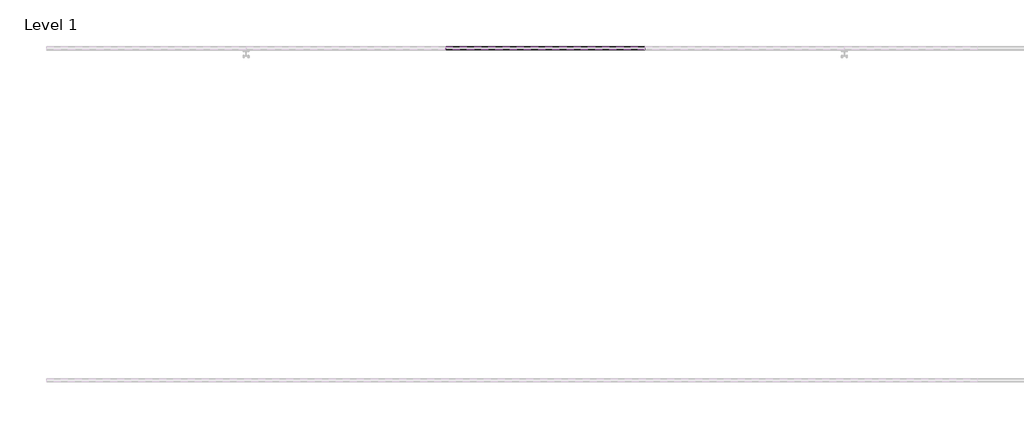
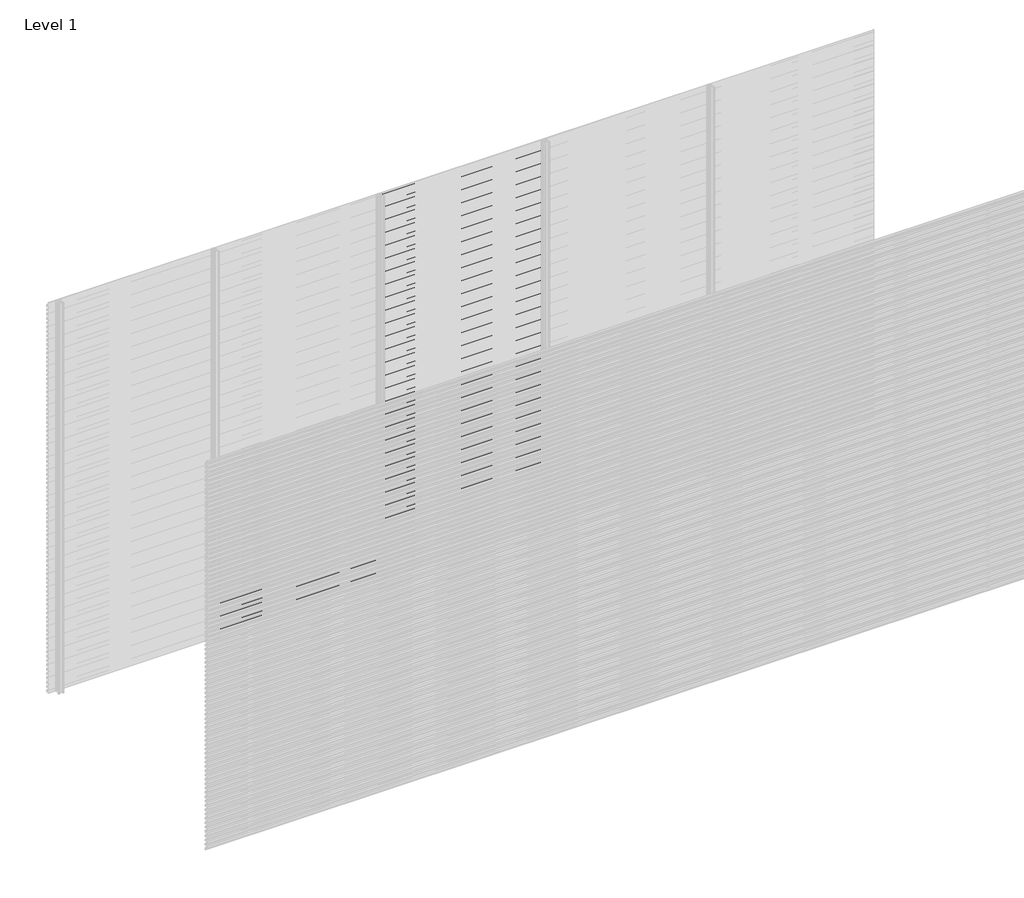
# One storey, part 33 of 507: 84 proxies.
"""IFC4 building model written with IfcOpenShell, lengths in millimetres."""

from ifc_helpers import new_model, si_unit, frame, origin, place, context, project, spatial, polyline, outline, extrude, element, save

model = new_model("IFC4")

# Units and contexts
model_context = context("Model", 3, world=origin())
ifc_project = project(units=[si_unit("LENGTHUNIT", "METRE", prefix="MILLI")], contexts=[model_context])

# Site, building, storey
site = spatial("IfcSite", under=ifc_project)
building = spatial("IfcBuilding", under=site)
storey = spatial("IfcBuildingStorey", under=building, Name="Level 1", Elevation=0.0)

# Proxies
placement = place(None, origin())
element("IfcBuildingElementProxy", 1, Name="Wall Sweeps", at=placement, inside=storey, context=model_context, shape_type="SweptSolid", body=[
    extrude(outline(polyline([(21503.4540136, 242.4), (21503.4540136, 228.9), (21502.2040136, 229.6216933), (21502.2040136, 241.6782281), (21483.0540136, 252.7345698), (21483.0540136, 266.4), (21484.3040136, 266.4), (21484.3040136, 253.4562577), (21503.4540136, 242.4)])), frame((46166.6208099, 0.0, 0.0), z_axis=(1.0, 0.0, 0.0), x_axis=(0.0, 1.0, 0.0)), (0.0, 0.0, 1.0), 1199.9999999),
])
element("IfcBuildingElementProxy", 2, Name="Wall Sweeps", at=placement, inside=storey, context=model_context, shape_type="SweptSolid", body=[
    extrude(outline(polyline([(21503.4540136, 209.1), (21503.4540136, 195.6), (21502.2040136, 196.3216933), (21502.2040136, 208.3782281), (21483.0540136, 219.4345698), (21483.0540136, 233.1), (21484.3040136, 233.1), (21484.3040136, 220.1562577), (21503.4540136, 209.1)])), frame((46166.6208099, 0.0, 0.0), z_axis=(1.0, 0.0, 0.0), x_axis=(0.0, 1.0, 0.0)), (0.0, 0.0, 1.0), 1199.9999999),
])
element("IfcBuildingElementProxy", 3, Name="Wall Sweeps", at=placement, inside=storey, context=model_context, shape_type="SweptSolid", body=[
    extrude(outline(polyline([(21503.4540136, 175.8), (21503.4540136, 162.3), (21502.2040136, 163.0216933), (21502.2040136, 175.0782281), (21483.0540136, 186.1345698), (21483.0540136, 199.8), (21484.3040136, 199.8), (21484.3040136, 186.8562577), (21503.4540136, 175.8)])), frame((46166.6208099, 0.0, 0.0), z_axis=(1.0, 0.0, 0.0), x_axis=(0.0, 1.0, 0.0)), (0.0, 0.0, 1.0), 1199.9999999),
])
element("IfcBuildingElementProxy", 4, Name="Wall Sweeps", at=placement, inside=storey, context=model_context, shape_type="SweptSolid", body=[
    extrude(outline(polyline([(21503.4540136, 142.5), (21503.4540136, 129.0), (21502.2040136, 129.7216933), (21502.2040136, 141.7782281), (21483.0540136, 152.8345698), (21483.0540136, 166.5), (21484.3040136, 166.5), (21484.3040136, 153.5562577), (21503.4540136, 142.5)])), frame((46166.6208099, 0.0, 0.0), z_axis=(1.0, 0.0, 0.0), x_axis=(0.0, 1.0, 0.0)), (0.0, 0.0, 1.0), 1199.9999999),
])
element("IfcBuildingElementProxy", 5, Name="Wall Sweeps", at=placement, inside=storey, context=model_context, shape_type="SweptSolid", body=[
    extrude(outline(polyline([(21503.4540136, 109.2), (21503.4540136, 95.7), (21502.2040136, 96.4216933), (21502.2040136, 108.4782281), (21483.0540136, 119.5345698), (21483.0540136, 133.2), (21484.3040136, 133.2), (21484.3040136, 120.2562577), (21503.4540136, 109.2)])), frame((46166.6208099, 0.0, 0.0), z_axis=(1.0, 0.0, 0.0), x_axis=(0.0, 1.0, 0.0)), (0.0, 0.0, 1.0), 1199.9999999),
])
element("IfcBuildingElementProxy", 6, Name="Wall Sweeps", at=placement, inside=storey, context=model_context, shape_type="SweptSolid", body=[
    extrude(outline(polyline([(21503.4540136, 75.9), (21503.4540136, 62.4), (21502.2040136, 63.1216933), (21502.2040136, 75.1782281), (21483.0540136, 86.2345698), (21483.0540136, 99.9), (21484.3040136, 99.9), (21484.3040136, 86.9562577), (21503.4540136, 75.9)])), frame((46166.6208099, 0.0, 0.0), z_axis=(1.0, 0.0, 0.0), x_axis=(0.0, 1.0, 0.0)), (0.0, 0.0, 1.0), 1199.9999999),
])
element("IfcBuildingElementProxy", 7, Name="Wall Sweeps", at=placement, inside=storey, context=model_context, shape_type="SweptSolid", body=[
    extrude(outline(polyline([(21503.4540136, 42.6), (21503.4540136, 29.1), (21502.2040136, 29.8216933), (21502.2040136, 41.8782281), (21483.0540136, 52.9345698), (21483.0540136, 66.6), (21484.3040136, 66.6), (21484.3040136, 53.6562577), (21503.4540136, 42.6)])), frame((46166.6208099, 0.0, 0.0), z_axis=(1.0, 0.0, 0.0), x_axis=(0.0, 1.0, 0.0)), (0.0, 0.0, 1.0), 1199.9999999),
])
element("IfcBuildingElementProxy", 8, Name="Wall Sweeps", at=placement, inside=storey, context=model_context, shape_type="SweptSolid", body=[
    extrude(outline(polyline([(21503.4540136, 9.3), (21503.4540136, -4.2), (21502.2040136, -3.4783067), (21502.2040136, 8.5782281), (21483.0540136, 19.6345698), (21483.0540136, 33.3), (21484.3040136, 33.3), (21484.3040136, 20.3562577), (21503.4540136, 9.3)])), frame((46166.6208099, 0.0, 0.0), z_axis=(1.0, 0.0, 0.0), x_axis=(0.0, 1.0, 0.0)), (0.0, 0.0, 1.0), 1199.9999999),
])
element("IfcBuildingElementProxy", 9, Name="Wall Sweeps", at=placement, inside=storey, context=model_context, shape_type="SweptSolid", body=[
    extrude(outline(polyline([(21503.4540136, 2973.0), (21503.4540136, 2959.5), (21502.2040136, 2960.2216933), (21502.2040136, 2972.2782281), (21483.0540136, 2983.3345698), (21483.0540136, 2997.0), (21484.3040136, 2997.0), (21484.3040136, 2984.0562577), (21503.4540136, 2973.0)])), frame((47366.6208097, 0.0, 0.0), z_axis=(1.0, 0.0, 0.0), x_axis=(0.0, 1.0, 0.0)), (0.0, 0.0, 1.0), 1199.9999999),
])
element("IfcBuildingElementProxy", 10, Name="Wall Sweeps", at=placement, inside=storey, context=model_context, shape_type="SweptSolid", body=[
    extrude(outline(polyline([(21503.4540136, 2939.7), (21503.4540136, 2926.2), (21502.2040136, 2926.9216933), (21502.2040136, 2938.9782281), (21483.0540136, 2950.0345698), (21483.0540136, 2963.7), (21484.3040136, 2963.7), (21484.3040136, 2950.7562577), (21503.4540136, 2939.7)])), frame((47366.6208097, 0.0, 0.0), z_axis=(1.0, 0.0, 0.0), x_axis=(0.0, 1.0, 0.0)), (0.0, 0.0, 1.0), 1199.9999999),
])
element("IfcBuildingElementProxy", 11, Name="Wall Sweeps", at=placement, inside=storey, context=model_context, shape_type="SweptSolid", body=[
    extrude(outline(polyline([(21503.4540136, 2906.4), (21503.4540136, 2892.9), (21502.2040136, 2893.6216933), (21502.2040136, 2905.6782281), (21483.0540136, 2916.7345698), (21483.0540136, 2930.4), (21484.3040136, 2930.4), (21484.3040136, 2917.4562577), (21503.4540136, 2906.4)])), frame((47366.6208097, 0.0, 0.0), z_axis=(1.0, 0.0, 0.0), x_axis=(0.0, 1.0, 0.0)), (0.0, 0.0, 1.0), 1199.9999999),
])
element("IfcBuildingElementProxy", 12, Name="Wall Sweeps", at=placement, inside=storey, context=model_context, shape_type="SweptSolid", body=[
    extrude(outline(polyline([(21503.4540136, 2873.1), (21503.4540136, 2859.6), (21502.2040136, 2860.3216933), (21502.2040136, 2872.3782281), (21483.0540136, 2883.4345698), (21483.0540136, 2897.1), (21484.3040136, 2897.1), (21484.3040136, 2884.1562577), (21503.4540136, 2873.1)])), frame((47366.6208097, 0.0, 0.0), z_axis=(1.0, 0.0, 0.0), x_axis=(0.0, 1.0, 0.0)), (0.0, 0.0, 1.0), 1199.9999999),
])
element("IfcBuildingElementProxy", 13, Name="Wall Sweeps", at=placement, inside=storey, context=model_context, shape_type="SweptSolid", body=[
    extrude(outline(polyline([(21503.4540136, 2839.8), (21503.4540136, 2826.3), (21502.2040136, 2827.0216933), (21502.2040136, 2839.0782281), (21483.0540136, 2850.1345698), (21483.0540136, 2863.8), (21484.3040136, 2863.8), (21484.3040136, 2850.8562577), (21503.4540136, 2839.8)])), frame((47366.6208097, 0.0, 0.0), z_axis=(1.0, 0.0, 0.0), x_axis=(0.0, 1.0, 0.0)), (0.0, 0.0, 1.0), 1199.9999999),
])
element("IfcBuildingElementProxy", 14, Name="Wall Sweeps", at=placement, inside=storey, context=model_context, shape_type="SweptSolid", body=[
    extrude(outline(polyline([(21503.4540136, 2806.5), (21503.4540136, 2793.0), (21502.2040136, 2793.7216933), (21502.2040136, 2805.7782281), (21483.0540136, 2816.8345698), (21483.0540136, 2830.5), (21484.3040136, 2830.5), (21484.3040136, 2817.5562577), (21503.4540136, 2806.5)])), frame((47366.6208097, 0.0, 0.0), z_axis=(1.0, 0.0, 0.0), x_axis=(0.0, 1.0, 0.0)), (0.0, 0.0, 1.0), 1199.9999999),
])
element("IfcBuildingElementProxy", 15, Name="Wall Sweeps", at=placement, inside=storey, context=model_context, shape_type="SweptSolid", body=[
    extrude(outline(polyline([(21503.4540136, 2773.2), (21503.4540136, 2759.7), (21502.2040136, 2760.4216933), (21502.2040136, 2772.4782281), (21483.0540136, 2783.5345698), (21483.0540136, 2797.2), (21484.3040136, 2797.2), (21484.3040136, 2784.2562577), (21503.4540136, 2773.2)])), frame((47366.6208097, 0.0, 0.0), z_axis=(1.0, 0.0, 0.0), x_axis=(0.0, 1.0, 0.0)), (0.0, 0.0, 1.0), 1199.9999999),
])
element("IfcBuildingElementProxy", 16, Name="Wall Sweeps", at=placement, inside=storey, context=model_context, shape_type="SweptSolid", body=[
    extrude(outline(polyline([(21503.4540136, 2739.9), (21503.4540136, 2726.4), (21502.2040136, 2727.1216933), (21502.2040136, 2739.1782281), (21483.0540136, 2750.2345698), (21483.0540136, 2763.9), (21484.3040136, 2763.9), (21484.3040136, 2750.9562577), (21503.4540136, 2739.9)])), frame((47366.6208097, 0.0, 0.0), z_axis=(1.0, 0.0, 0.0), x_axis=(0.0, 1.0, 0.0)), (0.0, 0.0, 1.0), 1199.9999999),
])
element("IfcBuildingElementProxy", 17, Name="Wall Sweeps", at=placement, inside=storey, context=model_context, shape_type="SweptSolid", body=[
    extrude(outline(polyline([(21503.4540136, 2706.6), (21503.4540136, 2693.1), (21502.2040136, 2693.8216933), (21502.2040136, 2705.8782281), (21483.0540136, 2716.9345698), (21483.0540136, 2730.6), (21484.3040136, 2730.6), (21484.3040136, 2717.6562577), (21503.4540136, 2706.6)])), frame((47366.6208097, 0.0, 0.0), z_axis=(1.0, 0.0, 0.0), x_axis=(0.0, 1.0, 0.0)), (0.0, 0.0, 1.0), 1199.9999999),
])
element("IfcBuildingElementProxy", 18, Name="Wall Sweeps", at=placement, inside=storey, context=model_context, shape_type="SweptSolid", body=[
    extrude(outline(polyline([(21503.4540136, 2673.3), (21503.4540136, 2659.8), (21502.2040136, 2660.5216933), (21502.2040136, 2672.5782281), (21483.0540136, 2683.6345698), (21483.0540136, 2697.3), (21484.3040136, 2697.3), (21484.3040136, 2684.3562577), (21503.4540136, 2673.3)])), frame((47366.6208097, 0.0, 0.0), z_axis=(1.0, 0.0, 0.0), x_axis=(0.0, 1.0, 0.0)), (0.0, 0.0, 1.0), 1199.9999999),
])
element("IfcBuildingElementProxy", 19, Name="Wall Sweeps", at=placement, inside=storey, context=model_context, shape_type="SweptSolid", body=[
    extrude(outline(polyline([(21503.4540136, 2640.0), (21503.4540136, 2626.5), (21502.2040136, 2627.2216933), (21502.2040136, 2639.2782281), (21483.0540136, 2650.3345698), (21483.0540136, 2664.0), (21484.3040136, 2664.0), (21484.3040136, 2651.0562577), (21503.4540136, 2640.0)])), frame((47366.6208097, 0.0, 0.0), z_axis=(1.0, 0.0, 0.0), x_axis=(0.0, 1.0, 0.0)), (0.0, 0.0, 1.0), 1199.9999999),
])
element("IfcBuildingElementProxy", 20, Name="Wall Sweeps", at=placement, inside=storey, context=model_context, shape_type="SweptSolid", body=[
    extrude(outline(polyline([(21503.4540136, 2606.7), (21503.4540136, 2593.2), (21502.2040136, 2593.9216933), (21502.2040136, 2605.9782281), (21483.0540136, 2617.0345698), (21483.0540136, 2630.7), (21484.3040136, 2630.7), (21484.3040136, 2617.7562577), (21503.4540136, 2606.7)])), frame((47366.6208097, 0.0, 0.0), z_axis=(1.0, 0.0, 0.0), x_axis=(0.0, 1.0, 0.0)), (0.0, 0.0, 1.0), 1199.9999999),
])
element("IfcBuildingElementProxy", 21, Name="Wall Sweeps", at=placement, inside=storey, context=model_context, shape_type="SweptSolid", body=[
    extrude(outline(polyline([(21503.4540136, 2573.4), (21503.4540136, 2559.9), (21502.2040136, 2560.6216933), (21502.2040136, 2572.6782281), (21483.0540136, 2583.7345698), (21483.0540136, 2597.4), (21484.3040136, 2597.4), (21484.3040136, 2584.4562577), (21503.4540136, 2573.4)])), frame((47366.6208097, 0.0, 0.0), z_axis=(1.0, 0.0, 0.0), x_axis=(0.0, 1.0, 0.0)), (0.0, 0.0, 1.0), 1199.9999999),
])
element("IfcBuildingElementProxy", 22, Name="Wall Sweeps", at=placement, inside=storey, context=model_context, shape_type="SweptSolid", body=[
    extrude(outline(polyline([(21503.4540136, 2540.1), (21503.4540136, 2526.6), (21502.2040136, 2527.3216933), (21502.2040136, 2539.3782281), (21483.0540136, 2550.4345698), (21483.0540136, 2564.1), (21484.3040136, 2564.1), (21484.3040136, 2551.1562577), (21503.4540136, 2540.1)])), frame((47366.6208097, 0.0, 0.0), z_axis=(1.0, 0.0, 0.0), x_axis=(0.0, 1.0, 0.0)), (0.0, 0.0, 1.0), 1199.9999999),
])
element("IfcBuildingElementProxy", 23, Name="Wall Sweeps", at=placement, inside=storey, context=model_context, shape_type="SweptSolid", body=[
    extrude(outline(polyline([(21503.4540136, 2506.8), (21503.4540136, 2493.3), (21502.2040136, 2494.0216933), (21502.2040136, 2506.0782281), (21483.0540136, 2517.1345698), (21483.0540136, 2530.8), (21484.3040136, 2530.8), (21484.3040136, 2517.8562577), (21503.4540136, 2506.8)])), frame((47366.6208097, 0.0, 0.0), z_axis=(1.0, 0.0, 0.0), x_axis=(0.0, 1.0, 0.0)), (0.0, 0.0, 1.0), 1199.9999999),
])
element("IfcBuildingElementProxy", 24, Name="Wall Sweeps", at=placement, inside=storey, context=model_context, shape_type="SweptSolid", body=[
    extrude(outline(polyline([(21503.4540136, 2473.5), (21503.4540136, 2460.0), (21502.2040136, 2460.7216933), (21502.2040136, 2472.7782281), (21483.0540136, 2483.8345698), (21483.0540136, 2497.5), (21484.3040136, 2497.5), (21484.3040136, 2484.5562577), (21503.4540136, 2473.5)])), frame((47366.6208097, 0.0, 0.0), z_axis=(1.0, 0.0, 0.0), x_axis=(0.0, 1.0, 0.0)), (0.0, 0.0, 1.0), 1199.9999999),
])
element("IfcBuildingElementProxy", 25, Name="Wall Sweeps", at=placement, inside=storey, context=model_context, shape_type="SweptSolid", body=[
    extrude(outline(polyline([(21503.4540136, 2440.2), (21503.4540136, 2426.7), (21502.2040136, 2427.4216933), (21502.2040136, 2439.4782281), (21483.0540136, 2450.5345698), (21483.0540136, 2464.2), (21484.3040136, 2464.2), (21484.3040136, 2451.2562577), (21503.4540136, 2440.2)])), frame((47366.6208097, 0.0, 0.0), z_axis=(1.0, 0.0, 0.0), x_axis=(0.0, 1.0, 0.0)), (0.0, 0.0, 1.0), 1199.9999999),
])
element("IfcBuildingElementProxy", 26, Name="Wall Sweeps", at=placement, inside=storey, context=model_context, shape_type="SweptSolid", body=[
    extrude(outline(polyline([(21503.4540136, 2406.9), (21503.4540136, 2393.4), (21502.2040136, 2394.1216933), (21502.2040136, 2406.1782281), (21483.0540136, 2417.2345698), (21483.0540136, 2430.9), (21484.3040136, 2430.9), (21484.3040136, 2417.9562577), (21503.4540136, 2406.9)])), frame((47366.6208097, 0.0, 0.0), z_axis=(1.0, 0.0, 0.0), x_axis=(0.0, 1.0, 0.0)), (0.0, 0.0, 1.0), 1199.9999999),
])
element("IfcBuildingElementProxy", 27, Name="Wall Sweeps", at=placement, inside=storey, context=model_context, shape_type="SweptSolid", body=[
    extrude(outline(polyline([(21503.4540136, 2373.6), (21503.4540136, 2360.1), (21502.2040136, 2360.8216933), (21502.2040136, 2372.8782281), (21483.0540136, 2383.9345698), (21483.0540136, 2397.6), (21484.3040136, 2397.6), (21484.3040136, 2384.6562577), (21503.4540136, 2373.6)])), frame((47366.6208097, 0.0, 0.0), z_axis=(1.0, 0.0, 0.0), x_axis=(0.0, 1.0, 0.0)), (0.0, 0.0, 1.0), 1199.9999999),
])
element("IfcBuildingElementProxy", 28, Name="Wall Sweeps", at=placement, inside=storey, context=model_context, shape_type="SweptSolid", body=[
    extrude(outline(polyline([(21503.4540136, 2340.3), (21503.4540136, 2326.8), (21502.2040136, 2327.5216933), (21502.2040136, 2339.5782281), (21483.0540136, 2350.6345698), (21483.0540136, 2364.3), (21484.3040136, 2364.3), (21484.3040136, 2351.3562577), (21503.4540136, 2340.3)])), frame((47366.6208097, 0.0, 0.0), z_axis=(1.0, 0.0, 0.0), x_axis=(0.0, 1.0, 0.0)), (0.0, 0.0, 1.0), 1199.9999999),
])
element("IfcBuildingElementProxy", 29, Name="Wall Sweeps", at=placement, inside=storey, context=model_context, shape_type="SweptSolid", body=[
    extrude(outline(polyline([(21503.4540136, 2307.0), (21503.4540136, 2293.5), (21502.2040136, 2294.2216933), (21502.2040136, 2306.2782281), (21483.0540136, 2317.3345698), (21483.0540136, 2331.0), (21484.3040136, 2331.0), (21484.3040136, 2318.0562577), (21503.4540136, 2307.0)])), frame((47366.6208097, 0.0, 0.0), z_axis=(1.0, 0.0, 0.0), x_axis=(0.0, 1.0, 0.0)), (0.0, 0.0, 1.0), 1199.9999999),
])
element("IfcBuildingElementProxy", 30, Name="Wall Sweeps", at=placement, inside=storey, context=model_context, shape_type="SweptSolid", body=[
    extrude(outline(polyline([(21503.4540136, 2273.7), (21503.4540136, 2260.2), (21502.2040136, 2260.9216933), (21502.2040136, 2272.9782281), (21483.0540136, 2284.0345698), (21483.0540136, 2297.7), (21484.3040136, 2297.7), (21484.3040136, 2284.7562577), (21503.4540136, 2273.7)])), frame((47366.6208097, 0.0, 0.0), z_axis=(1.0, 0.0, 0.0), x_axis=(0.0, 1.0, 0.0)), (0.0, 0.0, 1.0), 1199.9999999),
])
element("IfcBuildingElementProxy", 31, Name="Wall Sweeps", at=placement, inside=storey, context=model_context, shape_type="SweptSolid", body=[
    extrude(outline(polyline([(21503.4540136, 2240.4), (21503.4540136, 2226.9), (21502.2040136, 2227.6216933), (21502.2040136, 2239.6782281), (21483.0540136, 2250.7345698), (21483.0540136, 2264.4), (21484.3040136, 2264.4), (21484.3040136, 2251.4562577), (21503.4540136, 2240.4)])), frame((47366.6208097, 0.0, 0.0), z_axis=(1.0, 0.0, 0.0), x_axis=(0.0, 1.0, 0.0)), (0.0, 0.0, 1.0), 1199.9999999),
])
element("IfcBuildingElementProxy", 32, Name="Wall Sweeps", at=placement, inside=storey, context=model_context, shape_type="SweptSolid", body=[
    extrude(outline(polyline([(21503.4540136, 2207.1), (21503.4540136, 2193.6), (21502.2040136, 2194.3216933), (21502.2040136, 2206.3782281), (21483.0540136, 2217.4345698), (21483.0540136, 2231.1), (21484.3040136, 2231.1), (21484.3040136, 2218.1562577), (21503.4540136, 2207.1)])), frame((47366.6208097, 0.0, 0.0), z_axis=(1.0, 0.0, 0.0), x_axis=(0.0, 1.0, 0.0)), (0.0, 0.0, 1.0), 1199.9999999),
])
element("IfcBuildingElementProxy", 33, Name="Wall Sweeps", at=placement, inside=storey, context=model_context, shape_type="SweptSolid", body=[
    extrude(outline(polyline([(21503.4540136, 2173.8), (21503.4540136, 2160.3), (21502.2040136, 2161.0216933), (21502.2040136, 2173.0782281), (21483.0540136, 2184.1345698), (21483.0540136, 2197.8), (21484.3040136, 2197.8), (21484.3040136, 2184.8562577), (21503.4540136, 2173.8)])), frame((47366.6208097, 0.0, 0.0), z_axis=(1.0, 0.0, 0.0), x_axis=(0.0, 1.0, 0.0)), (0.0, 0.0, 1.0), 1199.9999999),
])
element("IfcBuildingElementProxy", 34, Name="Wall Sweeps", at=placement, inside=storey, context=model_context, shape_type="SweptSolid", body=[
    extrude(outline(polyline([(21503.4540136, 2140.5), (21503.4540136, 2127.0), (21502.2040136, 2127.7216933), (21502.2040136, 2139.7782281), (21483.0540136, 2150.8345698), (21483.0540136, 2164.5), (21484.3040136, 2164.5), (21484.3040136, 2151.5562577), (21503.4540136, 2140.5)])), frame((47366.6208097, 0.0, 0.0), z_axis=(1.0, 0.0, 0.0), x_axis=(0.0, 1.0, 0.0)), (0.0, 0.0, 1.0), 1199.9999999),
])
element("IfcBuildingElementProxy", 35, Name="Wall Sweeps", at=placement, inside=storey, context=model_context, shape_type="SweptSolid", body=[
    extrude(outline(polyline([(21503.4540136, 2107.2), (21503.4540136, 2093.7), (21502.2040136, 2094.4216933), (21502.2040136, 2106.4782281), (21483.0540136, 2117.5345698), (21483.0540136, 2131.2), (21484.3040136, 2131.2), (21484.3040136, 2118.2562577), (21503.4540136, 2107.2)])), frame((47366.6208097, 0.0, 0.0), z_axis=(1.0, 0.0, 0.0), x_axis=(0.0, 1.0, 0.0)), (0.0, 0.0, 1.0), 1199.9999999),
])
element("IfcBuildingElementProxy", 36, Name="Wall Sweeps", at=placement, inside=storey, context=model_context, shape_type="SweptSolid", body=[
    extrude(outline(polyline([(21503.4540136, 2073.9), (21503.4540136, 2060.4), (21502.2040136, 2061.1216933), (21502.2040136, 2073.1782281), (21483.0540136, 2084.2345698), (21483.0540136, 2097.9), (21484.3040136, 2097.9), (21484.3040136, 2084.9562577), (21503.4540136, 2073.9)])), frame((47366.6208097, 0.0, 0.0), z_axis=(1.0, 0.0, 0.0), x_axis=(0.0, 1.0, 0.0)), (0.0, 0.0, 1.0), 1199.9999999),
])
element("IfcBuildingElementProxy", 37, Name="Wall Sweeps", at=placement, inside=storey, context=model_context, shape_type="SweptSolid", body=[
    extrude(outline(polyline([(21503.4540136, 2040.6), (21503.4540136, 2027.1), (21502.2040136, 2027.8216933), (21502.2040136, 2039.8782281), (21483.0540136, 2050.9345698), (21483.0540136, 2064.6), (21484.3040136, 2064.6), (21484.3040136, 2051.6562577), (21503.4540136, 2040.6)])), frame((47366.6208097, 0.0, 0.0), z_axis=(1.0, 0.0, 0.0), x_axis=(0.0, 1.0, 0.0)), (0.0, 0.0, 1.0), 1199.9999999),
])
element("IfcBuildingElementProxy", 38, Name="Wall Sweeps", at=placement, inside=storey, context=model_context, shape_type="SweptSolid", body=[
    extrude(outline(polyline([(21503.4540136, 2007.3), (21503.4540136, 1993.8), (21502.2040136, 1994.5216933), (21502.2040136, 2006.5782281), (21483.0540136, 2017.6345698), (21483.0540136, 2031.3), (21484.3040136, 2031.3), (21484.3040136, 2018.3562577), (21503.4540136, 2007.3)])), frame((47366.6208097, 0.0, 0.0), z_axis=(1.0, 0.0, 0.0), x_axis=(0.0, 1.0, 0.0)), (0.0, 0.0, 1.0), 1199.9999999),
])
element("IfcBuildingElementProxy", 39, Name="Wall Sweeps", at=placement, inside=storey, context=model_context, shape_type="SweptSolid", body=[
    extrude(outline(polyline([(21503.4540136, 1974.0), (21503.4540136, 1960.5), (21502.2040136, 1961.2216933), (21502.2040136, 1973.2782281), (21483.0540136, 1984.3345698), (21483.0540136, 1998.0), (21484.3040136, 1998.0), (21484.3040136, 1985.0562577), (21503.4540136, 1974.0)])), frame((47366.6208097, 0.0, 0.0), z_axis=(1.0, 0.0, 0.0), x_axis=(0.0, 1.0, 0.0)), (0.0, 0.0, 1.0), 1199.9999999),
])
element("IfcBuildingElementProxy", 40, Name="Wall Sweeps", at=placement, inside=storey, context=model_context, shape_type="SweptSolid", body=[
    extrude(outline(polyline([(21503.4540136, 1940.7), (21503.4540136, 1927.2), (21502.2040136, 1927.9216933), (21502.2040136, 1939.9782281), (21483.0540136, 1951.0345698), (21483.0540136, 1964.7), (21484.3040136, 1964.7), (21484.3040136, 1951.7562577), (21503.4540136, 1940.7)])), frame((47366.6208097, 0.0, 0.0), z_axis=(1.0, 0.0, 0.0), x_axis=(0.0, 1.0, 0.0)), (0.0, 0.0, 1.0), 1199.9999999),
])
element("IfcBuildingElementProxy", 41, Name="Wall Sweeps", at=placement, inside=storey, context=model_context, shape_type="SweptSolid", body=[
    extrude(outline(polyline([(21503.4540136, 1907.4), (21503.4540136, 1893.9), (21502.2040136, 1894.6216933), (21502.2040136, 1906.6782281), (21483.0540136, 1917.7345698), (21483.0540136, 1931.4), (21484.3040136, 1931.4), (21484.3040136, 1918.4562577), (21503.4540136, 1907.4)])), frame((47366.6208097, 0.0, 0.0), z_axis=(1.0, 0.0, 0.0), x_axis=(0.0, 1.0, 0.0)), (0.0, 0.0, 1.0), 1199.9999999),
])
element("IfcBuildingElementProxy", 42, Name="Wall Sweeps", at=placement, inside=storey, context=model_context, shape_type="SweptSolid", body=[
    extrude(outline(polyline([(21503.4540136, 1874.1), (21503.4540136, 1860.6), (21502.2040136, 1861.3216933), (21502.2040136, 1873.3782281), (21483.0540136, 1884.4345698), (21483.0540136, 1898.1), (21484.3040136, 1898.1), (21484.3040136, 1885.1562577), (21503.4540136, 1874.1)])), frame((47366.6208097, 0.0, 0.0), z_axis=(1.0, 0.0, 0.0), x_axis=(0.0, 1.0, 0.0)), (0.0, 0.0, 1.0), 1199.9999999),
])
element("IfcBuildingElementProxy", 43, Name="Wall Sweeps", at=placement, inside=storey, context=model_context, shape_type="SweptSolid", body=[
    extrude(outline(polyline([(21503.4540136, 1840.8), (21503.4540136, 1827.3), (21502.2040136, 1828.0216933), (21502.2040136, 1840.0782281), (21483.0540136, 1851.1345698), (21483.0540136, 1864.8), (21484.3040136, 1864.8), (21484.3040136, 1851.8562577), (21503.4540136, 1840.8)])), frame((47366.6208097, 0.0, 0.0), z_axis=(1.0, 0.0, 0.0), x_axis=(0.0, 1.0, 0.0)), (0.0, 0.0, 1.0), 1199.9999999),
])
element("IfcBuildingElementProxy", 44, Name="Wall Sweeps", at=placement, inside=storey, context=model_context, shape_type="SweptSolid", body=[
    extrude(outline(polyline([(21503.4540136, 1807.5), (21503.4540136, 1794.0), (21502.2040136, 1794.7216933), (21502.2040136, 1806.7782281), (21483.0540136, 1817.8345698), (21483.0540136, 1831.5), (21484.3040136, 1831.5), (21484.3040136, 1818.5562577), (21503.4540136, 1807.5)])), frame((47366.6208097, 0.0, 0.0), z_axis=(1.0, 0.0, 0.0), x_axis=(0.0, 1.0, 0.0)), (0.0, 0.0, 1.0), 1199.9999999),
])
element("IfcBuildingElementProxy", 45, Name="Wall Sweeps", at=placement, inside=storey, context=model_context, shape_type="SweptSolid", body=[
    extrude(outline(polyline([(21503.4540136, 1774.2), (21503.4540136, 1760.7), (21502.2040136, 1761.4216933), (21502.2040136, 1773.4782281), (21483.0540136, 1784.5345698), (21483.0540136, 1798.2), (21484.3040136, 1798.2), (21484.3040136, 1785.2562577), (21503.4540136, 1774.2)])), frame((47366.6208097, 0.0, 0.0), z_axis=(1.0, 0.0, 0.0), x_axis=(0.0, 1.0, 0.0)), (0.0, 0.0, 1.0), 1199.9999999),
])
element("IfcBuildingElementProxy", 46, Name="Wall Sweeps", at=placement, inside=storey, context=model_context, shape_type="SweptSolid", body=[
    extrude(outline(polyline([(21503.4540136, 1740.9), (21503.4540136, 1727.4), (21502.2040136, 1728.1216933), (21502.2040136, 1740.1782281), (21483.0540136, 1751.2345698), (21483.0540136, 1764.9), (21484.3040136, 1764.9), (21484.3040136, 1751.9562577), (21503.4540136, 1740.9)])), frame((47366.6208097, 0.0, 0.0), z_axis=(1.0, 0.0, 0.0), x_axis=(0.0, 1.0, 0.0)), (0.0, 0.0, 1.0), 1199.9999999),
])
element("IfcBuildingElementProxy", 47, Name="Wall Sweeps", at=placement, inside=storey, context=model_context, shape_type="SweptSolid", body=[
    extrude(outline(polyline([(21503.4540136, 1707.6), (21503.4540136, 1694.1), (21502.2040136, 1694.8216933), (21502.2040136, 1706.8782281), (21483.0540136, 1717.9345698), (21483.0540136, 1731.6), (21484.3040136, 1731.6), (21484.3040136, 1718.6562577), (21503.4540136, 1707.6)])), frame((47366.6208097, 0.0, 0.0), z_axis=(1.0, 0.0, 0.0), x_axis=(0.0, 1.0, 0.0)), (0.0, 0.0, 1.0), 1199.9999999),
])
element("IfcBuildingElementProxy", 48, Name="Wall Sweeps", at=placement, inside=storey, context=model_context, shape_type="SweptSolid", body=[
    extrude(outline(polyline([(21503.4540136, 1674.3), (21503.4540136, 1660.8), (21502.2040136, 1661.5216933), (21502.2040136, 1673.5782281), (21483.0540136, 1684.6345698), (21483.0540136, 1698.3), (21484.3040136, 1698.3), (21484.3040136, 1685.3562577), (21503.4540136, 1674.3)])), frame((47366.6208097, 0.0, 0.0), z_axis=(1.0, 0.0, 0.0), x_axis=(0.0, 1.0, 0.0)), (0.0, 0.0, 1.0), 1199.9999999),
])
element("IfcBuildingElementProxy", 49, Name="Wall Sweeps", at=placement, inside=storey, context=model_context, shape_type="SweptSolid", body=[
    extrude(outline(polyline([(21503.4540136, 1641.0), (21503.4540136, 1627.5), (21502.2040136, 1628.2216933), (21502.2040136, 1640.2782281), (21483.0540136, 1651.3345698), (21483.0540136, 1665.0), (21484.3040136, 1665.0), (21484.3040136, 1652.0562577), (21503.4540136, 1641.0)])), frame((47366.6208097, 0.0, 0.0), z_axis=(1.0, 0.0, 0.0), x_axis=(0.0, 1.0, 0.0)), (0.0, 0.0, 1.0), 1199.9999999),
])
element("IfcBuildingElementProxy", 50, Name="Wall Sweeps", at=placement, inside=storey, context=model_context, shape_type="SweptSolid", body=[
    extrude(outline(polyline([(21503.4540136, 1607.7), (21503.4540136, 1594.2), (21502.2040136, 1594.9216933), (21502.2040136, 1606.9782281), (21483.0540136, 1618.0345698), (21483.0540136, 1631.7), (21484.3040136, 1631.7), (21484.3040136, 1618.7562577), (21503.4540136, 1607.7)])), frame((47366.6208097, 0.0, 0.0), z_axis=(1.0, 0.0, 0.0), x_axis=(0.0, 1.0, 0.0)), (0.0, 0.0, 1.0), 1199.9999999),
])
element("IfcBuildingElementProxy", 51, Name="Wall Sweeps", at=placement, inside=storey, context=model_context, shape_type="SweptSolid", body=[
    extrude(outline(polyline([(21503.4540136, 1574.4), (21503.4540136, 1560.9), (21502.2040136, 1561.6216933), (21502.2040136, 1573.6782281), (21483.0540136, 1584.7345698), (21483.0540136, 1598.4), (21484.3040136, 1598.4), (21484.3040136, 1585.4562577), (21503.4540136, 1574.4)])), frame((47366.6208097, 0.0, 0.0), z_axis=(1.0, 0.0, 0.0), x_axis=(0.0, 1.0, 0.0)), (0.0, 0.0, 1.0), 1199.9999999),
])
element("IfcBuildingElementProxy", 52, Name="Wall Sweeps", at=placement, inside=storey, context=model_context, shape_type="SweptSolid", body=[
    extrude(outline(polyline([(21503.4540136, 1541.1), (21503.4540136, 1527.6), (21502.2040136, 1528.3216933), (21502.2040136, 1540.3782281), (21483.0540136, 1551.4345698), (21483.0540136, 1565.1), (21484.3040136, 1565.1), (21484.3040136, 1552.1562577), (21503.4540136, 1541.1)])), frame((47366.6208097, 0.0, 0.0), z_axis=(1.0, 0.0, 0.0), x_axis=(0.0, 1.0, 0.0)), (0.0, 0.0, 1.0), 1199.9999999),
])
element("IfcBuildingElementProxy", 53, Name="Wall Sweeps", at=placement, inside=storey, context=model_context, shape_type="SweptSolid", body=[
    extrude(outline(polyline([(21503.4540136, 1507.8), (21503.4540136, 1494.3), (21502.2040136, 1495.0216933), (21502.2040136, 1507.0782281), (21483.0540136, 1518.1345698), (21483.0540136, 1531.8), (21484.3040136, 1531.8), (21484.3040136, 1518.8562577), (21503.4540136, 1507.8)])), frame((47366.6208097, 0.0, 0.0), z_axis=(1.0, 0.0, 0.0), x_axis=(0.0, 1.0, 0.0)), (0.0, 0.0, 1.0), 1199.9999999),
])
element("IfcBuildingElementProxy", 54, Name="Wall Sweeps", at=placement, inside=storey, context=model_context, shape_type="SweptSolid", body=[
    extrude(outline(polyline([(21503.4540136, 1474.5), (21503.4540136, 1461.0), (21502.2040136, 1461.7216933), (21502.2040136, 1473.7782281), (21483.0540136, 1484.8345698), (21483.0540136, 1498.5), (21484.3040136, 1498.5), (21484.3040136, 1485.5562577), (21503.4540136, 1474.5)])), frame((47366.6208097, 0.0, 0.0), z_axis=(1.0, 0.0, 0.0), x_axis=(0.0, 1.0, 0.0)), (0.0, 0.0, 1.0), 1199.9999999),
])
element("IfcBuildingElementProxy", 55, Name="Wall Sweeps", at=placement, inside=storey, context=model_context, shape_type="SweptSolid", body=[
    extrude(outline(polyline([(21503.4540136, 1441.2), (21503.4540136, 1427.7), (21502.2040136, 1428.4216933), (21502.2040136, 1440.4782281), (21483.0540136, 1451.5345698), (21483.0540136, 1465.2), (21484.3040136, 1465.2), (21484.3040136, 1452.2562577), (21503.4540136, 1441.2)])), frame((47366.6208097, 0.0, 0.0), z_axis=(1.0, 0.0, 0.0), x_axis=(0.0, 1.0, 0.0)), (0.0, 0.0, 1.0), 1199.9999999),
])
element("IfcBuildingElementProxy", 56, Name="Wall Sweeps", at=placement, inside=storey, context=model_context, shape_type="SweptSolid", body=[
    extrude(outline(polyline([(21503.4540136, 1407.9), (21503.4540136, 1394.4), (21502.2040136, 1395.1216933), (21502.2040136, 1407.1782281), (21483.0540136, 1418.2345698), (21483.0540136, 1431.9), (21484.3040136, 1431.9), (21484.3040136, 1418.9562577), (21503.4540136, 1407.9)])), frame((47366.6208097, 0.0, 0.0), z_axis=(1.0, 0.0, 0.0), x_axis=(0.0, 1.0, 0.0)), (0.0, 0.0, 1.0), 1199.9999999),
])
element("IfcBuildingElementProxy", 57, Name="Wall Sweeps", at=placement, inside=storey, context=model_context, shape_type="SweptSolid", body=[
    extrude(outline(polyline([(21503.4540136, 1374.6), (21503.4540136, 1361.1), (21502.2040136, 1361.8216933), (21502.2040136, 1373.8782281), (21483.0540136, 1384.9345698), (21483.0540136, 1398.6), (21484.3040136, 1398.6), (21484.3040136, 1385.6562577), (21503.4540136, 1374.6)])), frame((47366.6208097, 0.0, 0.0), z_axis=(1.0, 0.0, 0.0), x_axis=(0.0, 1.0, 0.0)), (0.0, 0.0, 1.0), 1199.9999999),
])
element("IfcBuildingElementProxy", 58, Name="Wall Sweeps", at=placement, inside=storey, context=model_context, shape_type="SweptSolid", body=[
    extrude(outline(polyline([(21503.4540136, 1341.3), (21503.4540136, 1327.8), (21502.2040136, 1328.5216933), (21502.2040136, 1340.5782281), (21483.0540136, 1351.6345698), (21483.0540136, 1365.3), (21484.3040136, 1365.3), (21484.3040136, 1352.3562577), (21503.4540136, 1341.3)])), frame((47366.6208097, 0.0, 0.0), z_axis=(1.0, 0.0, 0.0), x_axis=(0.0, 1.0, 0.0)), (0.0, 0.0, 1.0), 1199.9999999),
])
element("IfcBuildingElementProxy", 59, Name="Wall Sweeps", at=placement, inside=storey, context=model_context, shape_type="SweptSolid", body=[
    extrude(outline(polyline([(21503.4540136, 1308.0), (21503.4540136, 1294.5), (21502.2040136, 1295.2216933), (21502.2040136, 1307.2782281), (21483.0540136, 1318.3345698), (21483.0540136, 1332.0), (21484.3040136, 1332.0), (21484.3040136, 1319.0562577), (21503.4540136, 1308.0)])), frame((47366.6208097, 0.0, 0.0), z_axis=(1.0, 0.0, 0.0), x_axis=(0.0, 1.0, 0.0)), (0.0, 0.0, 1.0), 1199.9999999),
])
element("IfcBuildingElementProxy", 60, Name="Wall Sweeps", at=placement, inside=storey, context=model_context, shape_type="SweptSolid", body=[
    extrude(outline(polyline([(21503.4540136, 1274.7), (21503.4540136, 1261.2), (21502.2040136, 1261.9216933), (21502.2040136, 1273.9782281), (21483.0540136, 1285.0345698), (21483.0540136, 1298.7), (21484.3040136, 1298.7), (21484.3040136, 1285.7562577), (21503.4540136, 1274.7)])), frame((47366.6208097, 0.0, 0.0), z_axis=(1.0, 0.0, 0.0), x_axis=(0.0, 1.0, 0.0)), (0.0, 0.0, 1.0), 1199.9999999),
])
element("IfcBuildingElementProxy", 61, Name="Wall Sweeps", at=placement, inside=storey, context=model_context, shape_type="SweptSolid", body=[
    extrude(outline(polyline([(21503.4540136, 1241.4), (21503.4540136, 1227.9), (21502.2040136, 1228.6216933), (21502.2040136, 1240.6782281), (21483.0540136, 1251.7345698), (21483.0540136, 1265.4), (21484.3040136, 1265.4), (21484.3040136, 1252.4562577), (21503.4540136, 1241.4)])), frame((47366.6208097, 0.0, 0.0), z_axis=(1.0, 0.0, 0.0), x_axis=(0.0, 1.0, 0.0)), (0.0, 0.0, 1.0), 1199.9999999),
])
element("IfcBuildingElementProxy", 62, Name="Wall Sweeps", at=placement, inside=storey, context=model_context, shape_type="SweptSolid", body=[
    extrude(outline(polyline([(21503.4540136, 1208.1), (21503.4540136, 1194.6), (21502.2040136, 1195.3216933), (21502.2040136, 1207.3782281), (21483.0540136, 1218.4345698), (21483.0540136, 1232.1), (21484.3040136, 1232.1), (21484.3040136, 1219.1562577), (21503.4540136, 1208.1)])), frame((47366.6208097, 0.0, 0.0), z_axis=(1.0, 0.0, 0.0), x_axis=(0.0, 1.0, 0.0)), (0.0, 0.0, 1.0), 1199.9999999),
])
element("IfcBuildingElementProxy", 63, Name="Wall Sweeps", at=placement, inside=storey, context=model_context, shape_type="SweptSolid", body=[
    extrude(outline(polyline([(21503.4540136, 1174.8), (21503.4540136, 1161.3), (21502.2040136, 1162.0216933), (21502.2040136, 1174.0782281), (21483.0540136, 1185.1345698), (21483.0540136, 1198.8), (21484.3040136, 1198.8), (21484.3040136, 1185.8562577), (21503.4540136, 1174.8)])), frame((47366.6208097, 0.0, 0.0), z_axis=(1.0, 0.0, 0.0), x_axis=(0.0, 1.0, 0.0)), (0.0, 0.0, 1.0), 1199.9999999),
])
element("IfcBuildingElementProxy", 64, Name="Wall Sweeps", at=placement, inside=storey, context=model_context, shape_type="SweptSolid", body=[
    extrude(outline(polyline([(21503.4540136, 1141.5), (21503.4540136, 1128.0), (21502.2040136, 1128.7216933), (21502.2040136, 1140.7782281), (21483.0540136, 1151.8345698), (21483.0540136, 1165.5), (21484.3040136, 1165.5), (21484.3040136, 1152.5562577), (21503.4540136, 1141.5)])), frame((47366.6208097, 0.0, 0.0), z_axis=(1.0, 0.0, 0.0), x_axis=(0.0, 1.0, 0.0)), (0.0, 0.0, 1.0), 1199.9999999),
])
element("IfcBuildingElementProxy", 65, Name="Wall Sweeps", at=placement, inside=storey, context=model_context, shape_type="SweptSolid", body=[
    extrude(outline(polyline([(21503.4540136, 1108.2), (21503.4540136, 1094.7), (21502.2040136, 1095.4216933), (21502.2040136, 1107.4782281), (21483.0540136, 1118.5345698), (21483.0540136, 1132.2), (21484.3040136, 1132.2), (21484.3040136, 1119.2562577), (21503.4540136, 1108.2)])), frame((47366.6208097, 0.0, 0.0), z_axis=(1.0, 0.0, 0.0), x_axis=(0.0, 1.0, 0.0)), (0.0, 0.0, 1.0), 1199.9999999),
])
element("IfcBuildingElementProxy", 66, Name="Wall Sweeps", at=placement, inside=storey, context=model_context, shape_type="SweptSolid", body=[
    extrude(outline(polyline([(21503.4540136, 1074.9), (21503.4540136, 1061.4), (21502.2040136, 1062.1216933), (21502.2040136, 1074.1782281), (21483.0540136, 1085.2345698), (21483.0540136, 1098.9), (21484.3040136, 1098.9), (21484.3040136, 1085.9562577), (21503.4540136, 1074.9)])), frame((47366.6208097, 0.0, 0.0), z_axis=(1.0, 0.0, 0.0), x_axis=(0.0, 1.0, 0.0)), (0.0, 0.0, 1.0), 1199.9999999),
])
element("IfcBuildingElementProxy", 67, Name="Wall Sweeps", at=placement, inside=storey, context=model_context, shape_type="SweptSolid", body=[
    extrude(outline(polyline([(21503.4540136, 1041.6), (21503.4540136, 1028.1), (21502.2040136, 1028.8216933), (21502.2040136, 1040.8782281), (21483.0540136, 1051.9345698), (21483.0540136, 1065.6), (21484.3040136, 1065.6), (21484.3040136, 1052.6562577), (21503.4540136, 1041.6)])), frame((47366.6208097, 0.0, 0.0), z_axis=(1.0, 0.0, 0.0), x_axis=(0.0, 1.0, 0.0)), (0.0, 0.0, 1.0), 1199.9999999),
])
element("IfcBuildingElementProxy", 68, Name="Wall Sweeps", at=placement, inside=storey, context=model_context, shape_type="SweptSolid", body=[
    extrude(outline(polyline([(21503.4540136, 1008.3), (21503.4540136, 994.8), (21502.2040136, 995.5216933), (21502.2040136, 1007.5782281), (21483.0540136, 1018.6345698), (21483.0540136, 1032.3), (21484.3040136, 1032.3), (21484.3040136, 1019.3562577), (21503.4540136, 1008.3)])), frame((47366.6208097, 0.0, 0.0), z_axis=(1.0, 0.0, 0.0), x_axis=(0.0, 1.0, 0.0)), (0.0, 0.0, 1.0), 1199.9999999),
])
element("IfcBuildingElementProxy", 69, Name="Wall Sweeps", at=placement, inside=storey, context=model_context, shape_type="SweptSolid", body=[
    extrude(outline(polyline([(21503.4540136, 975.0), (21503.4540136, 961.5), (21502.2040136, 962.2216933), (21502.2040136, 974.2782281), (21483.0540136, 985.3345698), (21483.0540136, 999.0), (21484.3040136, 999.0), (21484.3040136, 986.0562577), (21503.4540136, 975.0)])), frame((47366.6208097, 0.0, 0.0), z_axis=(1.0, 0.0, 0.0), x_axis=(0.0, 1.0, 0.0)), (0.0, 0.0, 1.0), 1199.9999999),
])
element("IfcBuildingElementProxy", 70, Name="Wall Sweeps", at=placement, inside=storey, context=model_context, shape_type="SweptSolid", body=[
    extrude(outline(polyline([(21503.4540136, 941.7), (21503.4540136, 928.2), (21502.2040136, 928.9216933), (21502.2040136, 940.9782281), (21483.0540136, 952.0345698), (21483.0540136, 965.7), (21484.3040136, 965.7), (21484.3040136, 952.7562577), (21503.4540136, 941.7)])), frame((47366.6208097, 0.0, 0.0), z_axis=(1.0, 0.0, 0.0), x_axis=(0.0, 1.0, 0.0)), (0.0, 0.0, 1.0), 1199.9999999),
])
element("IfcBuildingElementProxy", 71, Name="Wall Sweeps", at=placement, inside=storey, context=model_context, shape_type="SweptSolid", body=[
    extrude(outline(polyline([(21503.4540136, 908.4), (21503.4540136, 894.9), (21502.2040136, 895.6216933), (21502.2040136, 907.6782281), (21483.0540136, 918.7345698), (21483.0540136, 932.4), (21484.3040136, 932.4), (21484.3040136, 919.4562577), (21503.4540136, 908.4)])), frame((47366.6208097, 0.0, 0.0), z_axis=(1.0, 0.0, 0.0), x_axis=(0.0, 1.0, 0.0)), (0.0, 0.0, 1.0), 1199.9999999),
])
element("IfcBuildingElementProxy", 72, Name="Wall Sweeps", at=placement, inside=storey, context=model_context, shape_type="SweptSolid", body=[
    extrude(outline(polyline([(21503.4540136, 875.1), (21503.4540136, 861.6), (21502.2040136, 862.3216933), (21502.2040136, 874.3782281), (21483.0540136, 885.4345698), (21483.0540136, 899.1), (21484.3040136, 899.1), (21484.3040136, 886.1562577), (21503.4540136, 875.1)])), frame((47366.6208097, 0.0, 0.0), z_axis=(1.0, 0.0, 0.0), x_axis=(0.0, 1.0, 0.0)), (0.0, 0.0, 1.0), 1199.9999999),
])
element("IfcBuildingElementProxy", 73, Name="Wall Sweeps", at=placement, inside=storey, context=model_context, shape_type="SweptSolid", body=[
    extrude(outline(polyline([(21503.4540136, 841.8), (21503.4540136, 828.3), (21502.2040136, 829.0216933), (21502.2040136, 841.0782281), (21483.0540136, 852.1345698), (21483.0540136, 865.8), (21484.3040136, 865.8), (21484.3040136, 852.8562577), (21503.4540136, 841.8)])), frame((47366.6208097, 0.0, 0.0), z_axis=(1.0, 0.0, 0.0), x_axis=(0.0, 1.0, 0.0)), (0.0, 0.0, 1.0), 1199.9999999),
])
element("IfcBuildingElementProxy", 74, Name="Wall Sweeps", at=placement, inside=storey, context=model_context, shape_type="SweptSolid", body=[
    extrude(outline(polyline([(21503.4540136, 808.5), (21503.4540136, 795.0), (21502.2040136, 795.7216933), (21502.2040136, 807.7782281), (21483.0540136, 818.8345698), (21483.0540136, 832.5), (21484.3040136, 832.5), (21484.3040136, 819.5562577), (21503.4540136, 808.5)])), frame((47366.6208097, 0.0, 0.0), z_axis=(1.0, 0.0, 0.0), x_axis=(0.0, 1.0, 0.0)), (0.0, 0.0, 1.0), 1199.9999999),
])
element("IfcBuildingElementProxy", 75, Name="Wall Sweeps", at=placement, inside=storey, context=model_context, shape_type="SweptSolid", body=[
    extrude(outline(polyline([(21503.4540136, 775.2), (21503.4540136, 761.7), (21502.2040136, 762.4216933), (21502.2040136, 774.4782281), (21483.0540136, 785.5345698), (21483.0540136, 799.2), (21484.3040136, 799.2), (21484.3040136, 786.2562577), (21503.4540136, 775.2)])), frame((47366.6208097, 0.0, 0.0), z_axis=(1.0, 0.0, 0.0), x_axis=(0.0, 1.0, 0.0)), (0.0, 0.0, 1.0), 1199.9999999),
])
element("IfcBuildingElementProxy", 76, Name="Wall Sweeps", at=placement, inside=storey, context=model_context, shape_type="SweptSolid", body=[
    extrude(outline(polyline([(21503.4540136, 741.9), (21503.4540136, 728.4), (21502.2040136, 729.1216933), (21502.2040136, 741.1782281), (21483.0540136, 752.2345698), (21483.0540136, 765.9), (21484.3040136, 765.9), (21484.3040136, 752.9562577), (21503.4540136, 741.9)])), frame((47366.6208097, 0.0, 0.0), z_axis=(1.0, 0.0, 0.0), x_axis=(0.0, 1.0, 0.0)), (0.0, 0.0, 1.0), 1199.9999999),
])
element("IfcBuildingElementProxy", 77, Name="Wall Sweeps", at=placement, inside=storey, context=model_context, shape_type="SweptSolid", body=[
    extrude(outline(polyline([(21503.4540136, 708.6), (21503.4540136, 695.1), (21502.2040136, 695.8216933), (21502.2040136, 707.8782281), (21483.0540136, 718.9345698), (21483.0540136, 732.6), (21484.3040136, 732.6), (21484.3040136, 719.6562577), (21503.4540136, 708.6)])), frame((47366.6208097, 0.0, 0.0), z_axis=(1.0, 0.0, 0.0), x_axis=(0.0, 1.0, 0.0)), (0.0, 0.0, 1.0), 1199.9999999),
])
element("IfcBuildingElementProxy", 78, Name="Wall Sweeps", at=placement, inside=storey, context=model_context, shape_type="SweptSolid", body=[
    extrude(outline(polyline([(21503.4540136, 675.3), (21503.4540136, 661.8), (21502.2040136, 662.5216933), (21502.2040136, 674.5782281), (21483.0540136, 685.6345698), (21483.0540136, 699.3), (21484.3040136, 699.3), (21484.3040136, 686.3562577), (21503.4540136, 675.3)])), frame((47366.6208097, 0.0, 0.0), z_axis=(1.0, 0.0, 0.0), x_axis=(0.0, 1.0, 0.0)), (0.0, 0.0, 1.0), 1199.9999999),
])
element("IfcBuildingElementProxy", 79, Name="Wall Sweeps", at=placement, inside=storey, context=model_context, shape_type="SweptSolid", body=[
    extrude(outline(polyline([(21503.4540136, 642.0), (21503.4540136, 628.5), (21502.2040136, 629.2216933), (21502.2040136, 641.2782281), (21483.0540136, 652.3345698), (21483.0540136, 666.0), (21484.3040136, 666.0), (21484.3040136, 653.0562577), (21503.4540136, 642.0)])), frame((47366.6208097, 0.0, 0.0), z_axis=(1.0, 0.0, 0.0), x_axis=(0.0, 1.0, 0.0)), (0.0, 0.0, 1.0), 1199.9999999),
])
element("IfcBuildingElementProxy", 80, Name="Wall Sweeps", at=placement, inside=storey, context=model_context, shape_type="SweptSolid", body=[
    extrude(outline(polyline([(21503.4540136, 608.7), (21503.4540136, 595.2), (21502.2040136, 595.9216933), (21502.2040136, 607.9782281), (21483.0540136, 619.0345698), (21483.0540136, 632.7), (21484.3040136, 632.7), (21484.3040136, 619.7562577), (21503.4540136, 608.7)])), frame((47366.6208097, 0.0, 0.0), z_axis=(1.0, 0.0, 0.0), x_axis=(0.0, 1.0, 0.0)), (0.0, 0.0, 1.0), 1199.9999999),
])
element("IfcBuildingElementProxy", 81, Name="Wall Sweeps", at=placement, inside=storey, context=model_context, shape_type="SweptSolid", body=[
    extrude(outline(polyline([(21503.4540136, 575.4), (21503.4540136, 561.9), (21502.2040136, 562.6216933), (21502.2040136, 574.6782281), (21483.0540136, 585.7345698), (21483.0540136, 599.4), (21484.3040136, 599.4), (21484.3040136, 586.4562577), (21503.4540136, 575.4)])), frame((47366.6208097, 0.0, 0.0), z_axis=(1.0, 0.0, 0.0), x_axis=(0.0, 1.0, 0.0)), (0.0, 0.0, 1.0), 1199.9999999),
])
element("IfcBuildingElementProxy", 82, Name="Wall Sweeps", at=placement, inside=storey, context=model_context, shape_type="SweptSolid", body=[
    extrude(outline(polyline([(21503.4540136, 542.1), (21503.4540136, 528.6), (21502.2040136, 529.3216933), (21502.2040136, 541.3782281), (21483.0540136, 552.4345698), (21483.0540136, 566.1), (21484.3040136, 566.1), (21484.3040136, 553.1562577), (21503.4540136, 542.1)])), frame((47366.6208097, 0.0, 0.0), z_axis=(1.0, 0.0, 0.0), x_axis=(0.0, 1.0, 0.0)), (0.0, 0.0, 1.0), 1199.9999999),
])
element("IfcBuildingElementProxy", 83, Name="Wall Sweeps", at=placement, inside=storey, context=model_context, shape_type="SweptSolid", body=[
    extrude(outline(polyline([(21503.4540136, 508.8), (21503.4540136, 495.3), (21502.2040136, 496.0216933), (21502.2040136, 508.0782281), (21483.0540136, 519.1345698), (21483.0540136, 532.8), (21484.3040136, 532.8), (21484.3040136, 519.8562577), (21503.4540136, 508.8)])), frame((47366.6208097, 0.0, 0.0), z_axis=(1.0, 0.0, 0.0), x_axis=(0.0, 1.0, 0.0)), (0.0, 0.0, 1.0), 1199.9999999),
])
element("IfcBuildingElementProxy", 84, Name="Wall Sweeps", at=placement, inside=storey, context=model_context, shape_type="SweptSolid", body=[
    extrude(outline(polyline([(21503.4540136, 475.5), (21503.4540136, 462.0), (21502.2040136, 462.7216933), (21502.2040136, 474.7782281), (21483.0540136, 485.8345698), (21483.0540136, 499.5), (21484.3040136, 499.5), (21484.3040136, 486.5562577), (21503.4540136, 475.5)])), frame((47366.6208097, 0.0, 0.0), z_axis=(1.0, 0.0, 0.0), x_axis=(0.0, 1.0, 0.0)), (0.0, 0.0, 1.0), 1199.9999999),
])

save(model, "model.ifc")
